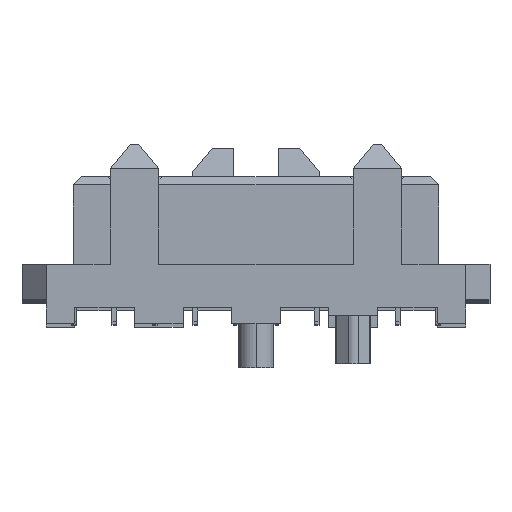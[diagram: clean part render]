
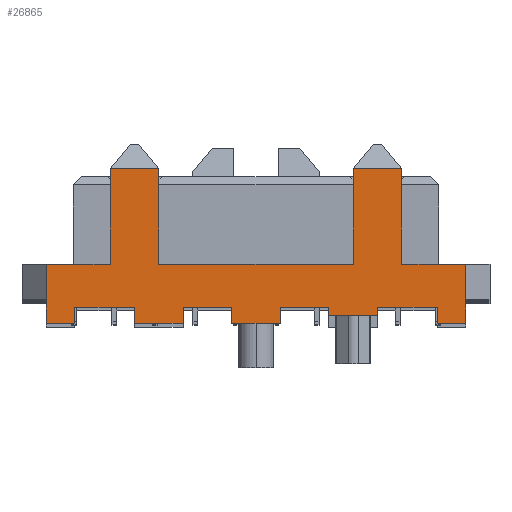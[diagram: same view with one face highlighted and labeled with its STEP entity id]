
A CAD part, top view. The second image highlights one B-rep face of the part: STEP entity #26865.
In plain terms, the highlighted planar face has unit normal (0, 0, 1).
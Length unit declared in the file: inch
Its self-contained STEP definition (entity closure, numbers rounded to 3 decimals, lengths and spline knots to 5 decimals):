
#1268=DIRECTION('',(1.,0.,0.));
#1269=VECTOR('',#1268,0.079);
#1270=CARTESIAN_POINT('',(0.13,0.044,-0.652));
#1271=LINE('',#1270,#1269);
#2184=DIRECTION('',(0.,1.,0.));
#2185=VECTOR('',#2184,0.118);
#2186=CARTESIAN_POINT('',(0.07,0.044,-0.652));
#2187=LINE('',#2186,#2185);
#2236=DIRECTION('',(1.,0.,0.));
#2237=VECTOR('',#2236,0.06);
#2238=CARTESIAN_POINT('',(0.07,0.162,-0.652));
#2239=LINE('',#2238,#2237);
#2244=DIRECTION('',(0.,1.,0.));
#2245=VECTOR('',#2244,0.118);
#2246=CARTESIAN_POINT('',(-0.17,0.044,-0.652));
#2247=LINE('',#2246,#2245);
#2248=DIRECTION('',(0.,1.,0.));
#2249=VECTOR('',#2248,0.118);
#2250=CARTESIAN_POINT('',(0.13,0.044,-0.652));
#2251=LINE('',#2250,#2249);
#2252=DIRECTION('',(1.,0.,0.));
#2253=VECTOR('',#2252,0.035);
#2254=CARTESIAN_POINT('',(0.174,-0.029,-0.652));
#2255=LINE('',#2254,#2253);
#2256=DIRECTION('',(0.,-1.,0.));
#2257=VECTOR('',#2256,0.02);
#2258=CARTESIAN_POINT('',(0.174,-0.009,-0.652));
#2259=LINE('',#2258,#2257);
#2260=DIRECTION('',(1.,0.,0.));
#2261=VECTOR('',#2260,0.074);
#2262=CARTESIAN_POINT('',(0.1,-0.009,-0.652));
#2263=LINE('',#2262,#2261);
#2264=DIRECTION('',(0.,1.,0.));
#2265=VECTOR('',#2264,0.01);
#2266=CARTESIAN_POINT('',(0.1,-0.019,-0.652));
#2267=LINE('',#2266,#2265);
#2268=DIRECTION('',(0.,-1.,0.));
#2269=VECTOR('',#2268,0.01);
#2270=CARTESIAN_POINT('',(0.04,-0.009,-0.652));
#2271=LINE('',#2270,#2269);
#2272=DIRECTION('',(1.,0.,0.));
#2273=VECTOR('',#2272,0.06);
#2274=CARTESIAN_POINT('',(-0.02,-0.009,-0.652));
#2275=LINE('',#2274,#2273);
#2276=DIRECTION('',(0.,1.,0.));
#2277=VECTOR('',#2276,0.02);
#2278=CARTESIAN_POINT('',(-0.02,-0.029,-0.652));
#2279=LINE('',#2278,#2277);
#2280=DIRECTION('',(1.,0.,0.));
#2281=VECTOR('',#2280,0.06);
#2282=CARTESIAN_POINT('',(-0.08,-0.029,-0.652));
#2283=LINE('',#2282,#2281);
#2284=DIRECTION('',(0.,-1.,0.));
#2285=VECTOR('',#2284,0.02);
#2286=CARTESIAN_POINT('',(-0.08,-0.009,-0.652));
#2287=LINE('',#2286,#2285);
#2288=DIRECTION('',(1.,0.,0.));
#2289=VECTOR('',#2288,0.06);
#2290=CARTESIAN_POINT('',(-0.14,-0.009,-0.652));
#2291=LINE('',#2290,#2289);
#2292=DIRECTION('',(0.,1.,0.));
#2293=VECTOR('',#2292,0.02);
#2294=CARTESIAN_POINT('',(-0.14,-0.029,-0.652));
#2295=LINE('',#2294,#2293);
#2296=DIRECTION('',(1.,0.,0.));
#2297=VECTOR('',#2296,0.06);
#2298=CARTESIAN_POINT('',(-0.2,-0.029,-0.652));
#2299=LINE('',#2298,#2297);
#2300=DIRECTION('',(0.,-1.,0.));
#2301=VECTOR('',#2300,0.02);
#2302=CARTESIAN_POINT('',(-0.2,-0.009,-0.652));
#2303=LINE('',#2302,#2301);
#2304=DIRECTION('',(1.,0.,0.));
#2305=VECTOR('',#2304,0.074);
#2306=CARTESIAN_POINT('',(-0.274,-0.009,-0.652));
#2307=LINE('',#2306,#2305);
#2308=DIRECTION('',(0.,1.,0.));
#2309=VECTOR('',#2308,0.02);
#2310=CARTESIAN_POINT('',(-0.274,-0.029,-0.652));
#2311=LINE('',#2310,#2309);
#2312=DIRECTION('',(1.,0.,0.));
#2313=VECTOR('',#2312,0.035);
#2314=CARTESIAN_POINT('',(-0.309,-0.029,-0.652));
#2315=LINE('',#2314,#2313);
#2316=DIRECTION('',(0.,-1.,0.));
#2317=VECTOR('',#2316,0.029);
#2318=CARTESIAN_POINT('',(-0.309,0.,-0.652));
#2319=LINE('',#2318,#2317);
#2324=DIRECTION('',(0.,1.,0.));
#2325=VECTOR('',#2324,0.044);
#2326=CARTESIAN_POINT('',(-0.309,0.,-0.652));
#2327=LINE('',#2326,#2325);
#2396=DIRECTION('',(1.,0.,0.));
#2397=VECTOR('',#2396,0.079);
#2398=CARTESIAN_POINT('',(-0.309,0.044,-0.652));
#2399=LINE('',#2398,#2397);
#2588=DIRECTION('',(0.,1.,0.));
#2589=VECTOR('',#2588,0.118);
#2590=CARTESIAN_POINT('',(-0.23,0.044,-0.652));
#2591=LINE('',#2590,#2589);
#2664=DIRECTION('',(1.,0.,0.));
#2665=VECTOR('',#2664,0.24);
#2666=CARTESIAN_POINT('',(-0.17,0.044,-0.652));
#2667=LINE('',#2666,#2665);
#2692=DIRECTION('',(1.,0.,0.));
#2693=VECTOR('',#2692,0.06);
#2694=CARTESIAN_POINT('',(-0.23,0.162,-0.652));
#2695=LINE('',#2694,#2693);
#3480=DIRECTION('',(0.,-1.,0.));
#3481=VECTOR('',#3480,0.044);
#3482=CARTESIAN_POINT('',(0.209,0.044,-0.652));
#3483=LINE('',#3482,#3481);
#3512=DIRECTION('',(0.,-1.,0.));
#3513=VECTOR('',#3512,0.029);
#3514=CARTESIAN_POINT('',(0.209,0.,-0.652));
#3515=LINE('',#3514,#3513);
#3684=DIRECTION('',(-1.,0.,0.));
#3685=VECTOR('',#3684,0.06);
#3686=CARTESIAN_POINT('',(0.1,-0.019,-0.652));
#3687=LINE('',#3686,#3685);
#18075=CARTESIAN_POINT('',(0.07,0.162,-0.652));
#18076=VERTEX_POINT('',#18075);
#18131=CARTESIAN_POINT('',(-0.14,-0.029,-0.652));
#18132=VERTEX_POINT('',#18131);
#18133=CARTESIAN_POINT('',(-0.14,-0.009,-0.652));
#18134=VERTEX_POINT('',#18133);
#18637=CARTESIAN_POINT('',(0.07,0.044,-0.652));
#18638=VERTEX_POINT('',#18637);
#18874=CARTESIAN_POINT('',(0.1,-0.019,-0.652));
#18875=CARTESIAN_POINT('',(0.04,-0.019,-0.652));
#18876=VERTEX_POINT('',#18874);
#18877=VERTEX_POINT('',#18875);
#19404=CARTESIAN_POINT('',(-0.274,-0.029,-0.652));
#19405=VERTEX_POINT('',#19404);
#19406=CARTESIAN_POINT('',(-0.274,-0.009,-0.652));
#19407=VERTEX_POINT('',#19406);
#19425=CARTESIAN_POINT('',(0.1,-0.009,-0.652));
#19426=VERTEX_POINT('',#19425);
#19427=CARTESIAN_POINT('',(0.174,-0.009,-0.652));
#19428=VERTEX_POINT('',#19427);
#19527=CARTESIAN_POINT('',(-0.2,-0.029,-0.652));
#19528=VERTEX_POINT('',#19527);
#19531=CARTESIAN_POINT('',(0.174,-0.029,-0.652));
#19532=VERTEX_POINT('',#19531);
#19607=CARTESIAN_POINT('',(-0.309,0.044,-0.652));
#19608=CARTESIAN_POINT('',(-0.23,0.044,-0.652));
#19609=VERTEX_POINT('',#19607);
#19610=VERTEX_POINT('',#19608);
#19611=CARTESIAN_POINT('',(-0.23,0.162,-0.652));
#19612=VERTEX_POINT('',#19611);
#19613=CARTESIAN_POINT('',(-0.17,0.162,-0.652));
#19614=VERTEX_POINT('',#19613);
#19615=CARTESIAN_POINT('',(-0.17,0.044,-0.652));
#19616=VERTEX_POINT('',#19615);
#19617=CARTESIAN_POINT('',(0.13,0.162,-0.652));
#19618=VERTEX_POINT('',#19617);
#19619=CARTESIAN_POINT('',(0.13,0.044,-0.652));
#19620=VERTEX_POINT('',#19619);
#19621=CARTESIAN_POINT('',(0.209,0.044,-0.652));
#19622=VERTEX_POINT('',#19621);
#19623=CARTESIAN_POINT('',(0.209,0.,-0.652));
#19624=VERTEX_POINT('',#19623);
#19625=CARTESIAN_POINT('',(0.209,-0.029,-0.652));
#19626=VERTEX_POINT('',#19625);
#19627=CARTESIAN_POINT('',(0.04,-0.009,-0.652));
#19628=VERTEX_POINT('',#19627);
#19629=CARTESIAN_POINT('',(-0.02,-0.009,-0.652));
#19630=VERTEX_POINT('',#19629);
#19631=CARTESIAN_POINT('',(-0.02,-0.029,-0.652));
#19632=VERTEX_POINT('',#19631);
#19633=CARTESIAN_POINT('',(-0.08,-0.029,-0.652));
#19634=VERTEX_POINT('',#19633);
#19635=CARTESIAN_POINT('',(-0.08,-0.009,-0.652));
#19636=VERTEX_POINT('',#19635);
#19637=CARTESIAN_POINT('',(-0.2,-0.009,-0.652));
#19638=VERTEX_POINT('',#19637);
#19639=CARTESIAN_POINT('',(-0.309,-0.029,-0.652));
#19640=VERTEX_POINT('',#19639);
#19641=CARTESIAN_POINT('',(-0.309,0.,-0.652));
#19642=VERTEX_POINT('',#19641);
#26802=CARTESIAN_POINT('',(0.239,1.89479,-0.652));
#26803=DIRECTION('',(0.,0.,1.));
#26804=DIRECTION('',(1.,0.,0.));
#26805=AXIS2_PLACEMENT_3D('',#26802,#26803,#26804);
#26806=PLANE('',#26805);
#26808=ORIENTED_EDGE('',*,*,#26807,.T.);
#26810=ORIENTED_EDGE('',*,*,#26809,.T.);
#26812=ORIENTED_EDGE('',*,*,#26811,.T.);
#26814=ORIENTED_EDGE('',*,*,#26813,.T.);
#26816=ORIENTED_EDGE('',*,*,#26815,.F.);
#26818=ORIENTED_EDGE('',*,*,#26817,.T.);
#26819=ORIENTED_EDGE('',*,*,#26717,.T.);
#26820=ORIENTED_EDGE('',*,*,#26785,.T.);
#26821=ORIENTED_EDGE('',*,*,#26687,.F.);
#26822=ORIENTED_EDGE('',*,*,#25116,.T.);
#26824=ORIENTED_EDGE('',*,*,#26823,.T.);
#26826=ORIENTED_EDGE('',*,*,#26825,.T.);
#26828=ORIENTED_EDGE('',*,*,#26827,.F.);
#26830=ORIENTED_EDGE('',*,*,#26829,.F.);
#26832=ORIENTED_EDGE('',*,*,#26831,.F.);
#26834=ORIENTED_EDGE('',*,*,#26833,.F.);
#26836=ORIENTED_EDGE('',*,*,#26835,.T.);
#26838=ORIENTED_EDGE('',*,*,#26837,.F.);
#26840=ORIENTED_EDGE('',*,*,#26839,.F.);
#26842=ORIENTED_EDGE('',*,*,#26841,.F.);
#26844=ORIENTED_EDGE('',*,*,#26843,.F.);
#26846=ORIENTED_EDGE('',*,*,#26845,.F.);
#26848=ORIENTED_EDGE('',*,*,#26847,.F.);
#26850=ORIENTED_EDGE('',*,*,#26849,.F.);
#26852=ORIENTED_EDGE('',*,*,#26851,.F.);
#26854=ORIENTED_EDGE('',*,*,#26853,.F.);
#26856=ORIENTED_EDGE('',*,*,#26855,.F.);
#26858=ORIENTED_EDGE('',*,*,#26857,.F.);
#26860=ORIENTED_EDGE('',*,*,#26859,.F.);
#26862=ORIENTED_EDGE('',*,*,#26861,.F.);
#26863=EDGE_LOOP('',(#26808,#26810,#26812,#26814,#26816,#26818,#26819,#26820,
#26821,#26822,#26824,#26826,#26828,#26830,#26832,#26834,#26836,#26838,#26840,
#26842,#26844,#26846,#26848,#26850,#26852,#26854,#26856,#26858,#26860,#26862));
#26864=FACE_OUTER_BOUND('',#26863,.F.);
#26865=ADVANCED_FACE('',(#26864),#26806,.T.);
#25116=EDGE_CURVE('',#19620,#19622,#1271,.T.);
#26687=EDGE_CURVE('',#19620,#19618,#2251,.T.);
#26717=EDGE_CURVE('',#18638,#18076,#2187,.T.);
#26785=EDGE_CURVE('',#18076,#19618,#2239,.T.);
#26807=EDGE_CURVE('',#19642,#19609,#2327,.T.);
#26809=EDGE_CURVE('',#19609,#19610,#2399,.T.);
#26811=EDGE_CURVE('',#19610,#19612,#2591,.T.);
#26813=EDGE_CURVE('',#19612,#19614,#2695,.T.);
#26815=EDGE_CURVE('',#19616,#19614,#2247,.T.);
#26817=EDGE_CURVE('',#19616,#18638,#2667,.T.);
#26823=EDGE_CURVE('',#19622,#19624,#3483,.T.);
#26825=EDGE_CURVE('',#19624,#19626,#3515,.T.);
#26827=EDGE_CURVE('',#19532,#19626,#2255,.T.);
#26829=EDGE_CURVE('',#19428,#19532,#2259,.T.);
#26831=EDGE_CURVE('',#19426,#19428,#2263,.T.);
#26833=EDGE_CURVE('',#18876,#19426,#2267,.T.);
#26835=EDGE_CURVE('',#18876,#18877,#3687,.T.);
#26837=EDGE_CURVE('',#19628,#18877,#2271,.T.);
#26839=EDGE_CURVE('',#19630,#19628,#2275,.T.);
#26841=EDGE_CURVE('',#19632,#19630,#2279,.T.);
#26843=EDGE_CURVE('',#19634,#19632,#2283,.T.);
#26845=EDGE_CURVE('',#19636,#19634,#2287,.T.);
#26847=EDGE_CURVE('',#18134,#19636,#2291,.T.);
#26849=EDGE_CURVE('',#18132,#18134,#2295,.T.);
#26851=EDGE_CURVE('',#19528,#18132,#2299,.T.);
#26853=EDGE_CURVE('',#19638,#19528,#2303,.T.);
#26855=EDGE_CURVE('',#19407,#19638,#2307,.T.);
#26857=EDGE_CURVE('',#19405,#19407,#2311,.T.);
#26859=EDGE_CURVE('',#19640,#19405,#2315,.T.);
#26861=EDGE_CURVE('',#19642,#19640,#2319,.T.);
